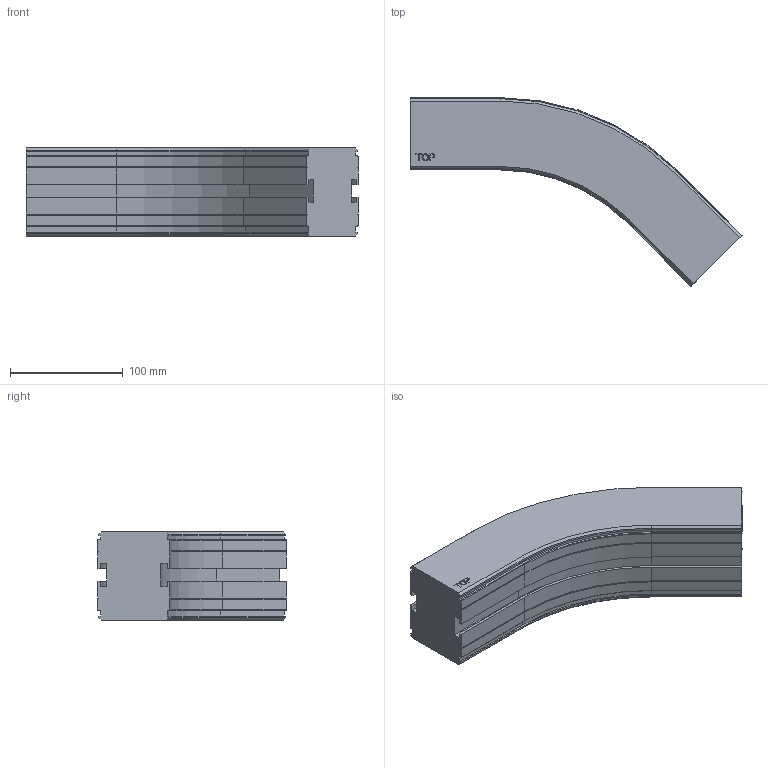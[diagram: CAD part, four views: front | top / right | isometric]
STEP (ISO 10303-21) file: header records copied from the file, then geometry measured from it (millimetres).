
FILE_DESCRIPTION((''),'2;1');
FILE_NAME('C:\Vault Klient\Projekt\Koncept konstruktion\Serie 620 Balk\620-5150.stp','2009-11-26T14:46:16',('Mathias'),(''),'Autodesk Inventor 2010','Autodesk Inventor 2010','');
FILE_SCHEMA(('AUTOMOTIVE_DESIGN { 1 0 10303 214 1 1 1 1 }'));
Length unit declared in the file: millimetre
Products named in the file (1): 620-5150
Bounding box: 294.25 x 167.14 x 78 mm (x, y, z)
Volume: 1441683.4 mm3; surface area: 121072.2 mm2
Topology: 1 solids, 1 shells, 169 faces, 446 edges, 284 vertices
Faces by surface type: plane 109, cylinder 30, bspline 14, cone 12, torus 4
Entity records: 5295 total; most frequent: CARTESIAN_POINT 1094, ORIENTED_EDGE 892, DIRECTION 802, EDGE_CURVE 446, VECTOR 346, LINE 346, VERTEX_POINT 284, AXIS2_PLACEMENT_3D 228
